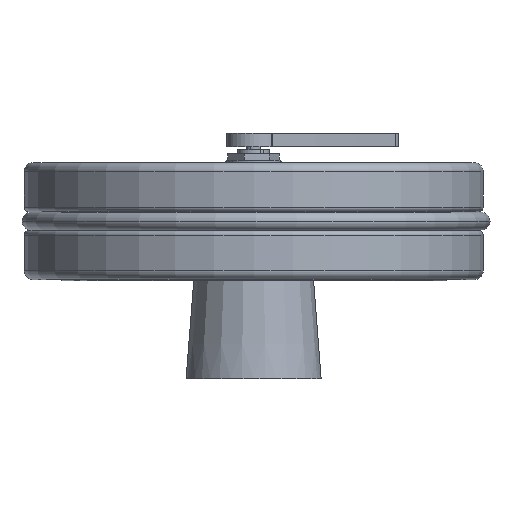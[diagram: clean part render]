
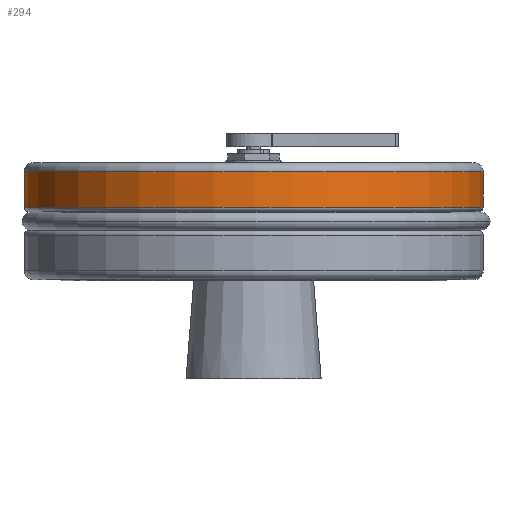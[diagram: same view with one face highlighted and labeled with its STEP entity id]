
A CAD part, front view. The second image highlights one B-rep face of the part: STEP entity #294.
In plain terms, the highlighted cylindrical face has radius 51 mm (diameter 102 mm), a partial arc.
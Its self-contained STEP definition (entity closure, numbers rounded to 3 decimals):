
#209 = LINE ( 'NONE', #3749, #772 ) ;
#222 = LINE ( 'NONE', #5827, #577 ) ;
#294 = ADVANCED_FACE ( 'NONE', ( #3872 ), #4185, .T. ) ;
#299 = AXIS2_PLACEMENT_3D ( 'NONE', #4615, #5587, #2870 ) ;
#577 = VECTOR ( 'NONE', #5441, 1000. ) ;
#583 = AXIS2_PLACEMENT_3D ( 'NONE', #4141, #1390, #1852 ) ;
#772 = VECTOR ( 'NONE', #5102, 1000. ) ;
#1160 = EDGE_LOOP ( 'NONE', ( #2504, #4791, #4653, #5534 ) ) ;
#1295 = DIRECTION ( 'NONE',  ( 1., 0., 0. ) ) ;
#1390 = DIRECTION ( 'NONE',  ( 0., 0., -1. ) ) ;
#1852 = DIRECTION ( 'NONE',  ( -1., 0., 0. ) ) ;
#2147 = EDGE_CURVE ( 'NONE', #4624, #2646, #4969, .T. ) ;
#2209 = CARTESIAN_POINT ( 'NONE',  ( 0., 0., 2. ) ) ;
#2504 = ORIENTED_EDGE ( 'NONE', *, *, #5336, .F. ) ;
#2646 = VERTEX_POINT ( 'NONE', #2703 ) ;
#2655 = CIRCLE ( 'NONE', #4612, 51. ) ;
#2663 = DIRECTION ( 'NONE',  ( 0., 0., 1. ) ) ;
#2703 = CARTESIAN_POINT ( 'NONE',  ( -51., 0., 9.9 ) ) ;
#2870 = DIRECTION ( 'NONE',  ( -1., 0., 0. ) ) ;
#3079 = VERTEX_POINT ( 'NONE', #3906 ) ;
#3218 = CARTESIAN_POINT ( 'NONE',  ( -51., 0., 2. ) ) ;
#3401 = VERTEX_POINT ( 'NONE', #3218 ) ;
#3749 = CARTESIAN_POINT ( 'NONE',  ( 51., 0., 26. ) ) ;
#3872 = FACE_OUTER_BOUND ( 'NONE', #1160, .T. ) ;
#3906 = CARTESIAN_POINT ( 'NONE',  ( 51., 0., 2. ) ) ;
#4141 = CARTESIAN_POINT ( 'NONE',  ( 0., 0., 26. ) ) ;
#4185 = CYLINDRICAL_SURFACE ( 'NONE', #583, 51. ) ;
#4611 = EDGE_CURVE ( 'NONE', #3401, #3079, #2655, .T. ) ;
#4612 = AXIS2_PLACEMENT_3D ( 'NONE', #2209, #2663, #1295 ) ;
#4615 = CARTESIAN_POINT ( 'NONE',  ( 0., 0., 9.9 ) ) ;
#4624 = VERTEX_POINT ( 'NONE', #5396 ) ;
#4636 = EDGE_CURVE ( 'NONE', #2646, #3401, #222, .T. ) ;
#4653 = ORIENTED_EDGE ( 'NONE', *, *, #4636, .T. ) ;
#4791 = ORIENTED_EDGE ( 'NONE', *, *, #2147, .T. ) ;
#4969 = CIRCLE ( 'NONE', #299, 51. ) ;
#5102 = DIRECTION ( 'NONE',  ( 0., 0., -1. ) ) ;
#5336 = EDGE_CURVE ( 'NONE', #4624, #3079, #209, .T. ) ;
#5396 = CARTESIAN_POINT ( 'NONE',  ( 51., 0., 9.9 ) ) ;
#5441 = DIRECTION ( 'NONE',  ( 0., 0., -1. ) ) ;
#5534 = ORIENTED_EDGE ( 'NONE', *, *, #4611, .T. ) ;
#5587 = DIRECTION ( 'NONE',  ( 0., 0., -1. ) ) ;
#5827 = CARTESIAN_POINT ( 'NONE',  ( -51., 0., 26. ) ) ;
